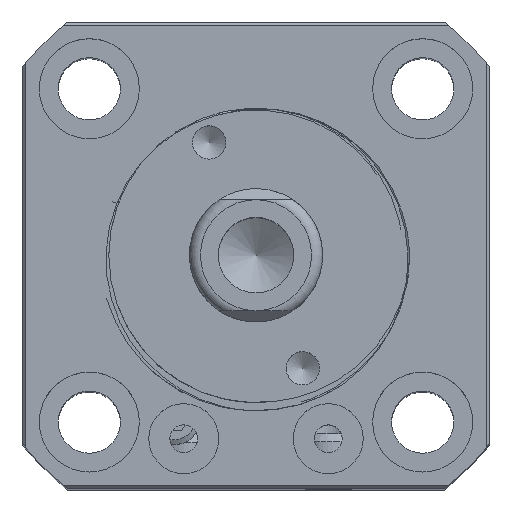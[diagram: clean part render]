
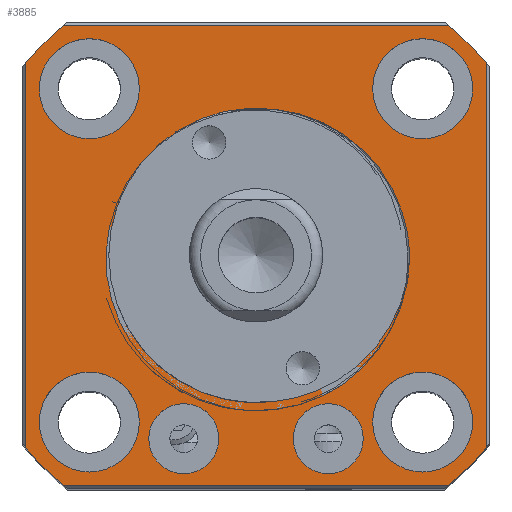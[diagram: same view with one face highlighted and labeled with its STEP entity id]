
A CAD part, top view. The second image highlights one B-rep face of the part: STEP entity #3885.
In plain terms, the highlighted planar face has unit normal (0, 0, 1).
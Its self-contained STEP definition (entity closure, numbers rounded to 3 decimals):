
#3480=B_SPLINE_CURVE_WITH_KNOTS('',3,(#16059,#16060,#16061,#16062,#16063,
#16064),.UNSPECIFIED.,.F.,.F.,(4,2,4),(0.,0.5,1.),.UNSPECIFIED.);
#3481=B_SPLINE_CURVE_WITH_KNOTS('',3,(#16066,#16067,#16068,#16069,#16070,
#16071),.UNSPECIFIED.,.F.,.F.,(4,2,4),(0.,0.5,1.),.UNSPECIFIED.);
#3885=ADVANCED_FACE('',(#4778,#4779,#4780,#4781,#4782,#4783,#4784,#4785),
#4398,.T.);
#4398=PLANE('',#12786);
#4778=FACE_BOUND('',#5007,.T.);
#4779=FACE_BOUND('',#5008,.T.);
#4780=FACE_BOUND('',#5009,.T.);
#4781=FACE_BOUND('',#5010,.T.);
#4782=FACE_BOUND('',#5011,.T.);
#4783=FACE_BOUND('',#5012,.T.);
#4784=FACE_BOUND('',#5013,.T.);
#4785=FACE_BOUND('',#5014,.T.);
#5007=EDGE_LOOP('',(#7681));
#5008=EDGE_LOOP('',(#7682));
#5009=EDGE_LOOP('',(#7683));
#5010=EDGE_LOOP('',(#7684));
#5011=EDGE_LOOP('',(#7685));
#5012=EDGE_LOOP('',(#7686));
#5013=EDGE_LOOP('',(#7687,#7688,#7689));
#5014=EDGE_LOOP('',(#7690,#7691,#7692,#7693,#7694,#7695,#7696,#7697));
#5632=LINE('',#16072,#6553);
#5633=LINE('',#16077,#6554);
#5634=LINE('',#16081,#6555);
#5635=LINE('',#16085,#6556);
#6553=VECTOR('',#13370,1.);
#6554=VECTOR('',#13373,1.);
#6555=VECTOR('',#13376,1.);
#6556=VECTOR('',#13379,1.);
#7681=ORIENTED_EDGE('',*,*,#11267,.F.);
#7682=ORIENTED_EDGE('',*,*,#11269,.F.);
#7683=ORIENTED_EDGE('',*,*,#11287,.F.);
#7684=ORIENTED_EDGE('',*,*,#11289,.F.);
#7685=ORIENTED_EDGE('',*,*,#11291,.F.);
#7686=ORIENTED_EDGE('',*,*,#11293,.F.);
#7687=ORIENTED_EDGE('',*,*,#11323,.F.);
#7688=ORIENTED_EDGE('',*,*,#11345,.T.);
#7689=ORIENTED_EDGE('',*,*,#11346,.T.);
#7690=ORIENTED_EDGE('',*,*,#11347,.T.);
#7691=ORIENTED_EDGE('',*,*,#11348,.T.);
#7692=ORIENTED_EDGE('',*,*,#11349,.T.);
#7693=ORIENTED_EDGE('',*,*,#11350,.T.);
#7694=ORIENTED_EDGE('',*,*,#11351,.T.);
#7695=ORIENTED_EDGE('',*,*,#11352,.T.);
#7696=ORIENTED_EDGE('',*,*,#11353,.T.);
#7697=ORIENTED_EDGE('',*,*,#11354,.T.);
#10316=VERTEX_POINT('',#15458);
#10318=VERTEX_POINT('',#15463);
#10335=VERTEX_POINT('',#15633);
#10337=VERTEX_POINT('',#15638);
#10339=VERTEX_POINT('',#15643);
#10341=VERTEX_POINT('',#15648);
#10371=VERTEX_POINT('',#15866);
#10372=VERTEX_POINT('',#15868);
#10393=VERTEX_POINT('',#16065);
#10394=VERTEX_POINT('',#16073);
#10395=VERTEX_POINT('',#16074);
#10396=VERTEX_POINT('',#16076);
#10397=VERTEX_POINT('',#16078);
#10398=VERTEX_POINT('',#16080);
#10399=VERTEX_POINT('',#16082);
#10400=VERTEX_POINT('',#16084);
#10401=VERTEX_POINT('',#16086);
#11267=EDGE_CURVE('',#10316,#10316,#12616,.T.);
#11269=EDGE_CURVE('',#10318,#10318,#12618,.T.);
#11287=EDGE_CURVE('',#10335,#10335,#12633,.T.);
#11289=EDGE_CURVE('',#10337,#10337,#12635,.T.);
#11291=EDGE_CURVE('',#10339,#10339,#12637,.T.);
#11293=EDGE_CURVE('',#10341,#10341,#12639,.T.);
#11323=EDGE_CURVE('',#10371,#10372,#12649,.T.);
#11345=EDGE_CURVE('',#10371,#10393,#3480,.T.);
#11346=EDGE_CURVE('',#10393,#10372,#3481,.T.);
#11347=EDGE_CURVE('',#10394,#10395,#5632,.T.);
#11348=EDGE_CURVE('',#10395,#10396,#12651,.T.);
#11349=EDGE_CURVE('',#10396,#10397,#5633,.T.);
#11350=EDGE_CURVE('',#10397,#10398,#12652,.T.);
#11351=EDGE_CURVE('',#10398,#10399,#5634,.T.);
#11352=EDGE_CURVE('',#10399,#10400,#12653,.T.);
#11353=EDGE_CURVE('',#10400,#10401,#5635,.T.);
#11354=EDGE_CURVE('',#10401,#10394,#12654,.T.);
#12616=CIRCLE('',#12728,3.15);
#12618=CIRCLE('',#12731,3.15);
#12633=CIRCLE('',#12755,4.5);
#12635=CIRCLE('',#12758,4.5);
#12637=CIRCLE('',#12761,4.5);
#12639=CIRCLE('',#12764,4.5);
#12649=CIRCLE('',#12779,13.25);
#12651=CIRCLE('',#12782,27.);
#12652=CIRCLE('',#12783,27.);
#12653=CIRCLE('',#12784,27.);
#12654=CIRCLE('',#12785,27.);
#12728=AXIS2_PLACEMENT_3D('',#15457,#13261,#13262);
#12731=AXIS2_PLACEMENT_3D('',#15462,#13267,#13268);
#12755=AXIS2_PLACEMENT_3D('',#15632,#13315,#13316);
#12758=AXIS2_PLACEMENT_3D('',#15637,#13321,#13322);
#12761=AXIS2_PLACEMENT_3D('',#15642,#13327,#13328);
#12764=AXIS2_PLACEMENT_3D('',#15647,#13333,#13334);
#12779=AXIS2_PLACEMENT_3D('',#15867,#13363,#13364);
#12782=AXIS2_PLACEMENT_3D('',#16075,#13371,#13372);
#12783=AXIS2_PLACEMENT_3D('',#16079,#13374,#13375);
#12784=AXIS2_PLACEMENT_3D('',#16083,#13377,#13378);
#12785=AXIS2_PLACEMENT_3D('',#16087,#13380,#13381);
#12786=AXIS2_PLACEMENT_3D('',#16088,#13382,#13383);
#13261=DIRECTION('',(0.,0.,1.));
#13262=DIRECTION('',(1.,0.,0.));
#13267=DIRECTION('',(0.,0.,1.));
#13268=DIRECTION('',(1.,0.,0.));
#13315=DIRECTION('',(0.,0.,1.));
#13316=DIRECTION('',(1.,0.,0.));
#13321=DIRECTION('',(0.,0.,1.));
#13322=DIRECTION('',(1.,0.,0.));
#13327=DIRECTION('',(0.,0.,1.));
#13328=DIRECTION('',(1.,0.,0.));
#13333=DIRECTION('',(0.,0.,1.));
#13334=DIRECTION('',(1.,0.,0.));
#13363=DIRECTION('',(0.,0.,1.));
#13364=DIRECTION('',(1.,0.,0.));
#13370=DIRECTION('',(0.,1.,0.));
#13371=DIRECTION('',(0.,0.,1.));
#13372=DIRECTION('',(1.,0.,0.));
#13373=DIRECTION('',(-1.,0.,0.));
#13374=DIRECTION('',(0.,0.,1.));
#13375=DIRECTION('',(1.,0.,0.));
#13376=DIRECTION('',(0.,-1.,0.));
#13377=DIRECTION('',(0.,0.,1.));
#13378=DIRECTION('',(1.,0.,0.));
#13379=DIRECTION('',(1.,0.,0.));
#13380=DIRECTION('',(0.,0.,1.));
#13381=DIRECTION('',(1.,0.,0.));
#13382=DIRECTION('',(0.,0.,1.));
#13383=DIRECTION('',(-1.,0.,0.));
#15457=CARTESIAN_POINT('',(-113.65,1.619,78.017));
#15458=CARTESIAN_POINT('',(-110.5,1.619,78.017));
#15462=CARTESIAN_POINT('',(-100.65,1.619,78.017));
#15463=CARTESIAN_POINT('',(-97.5,1.619,78.017));
#15632=CARTESIAN_POINT('',(-122.15,3.119,78.017));
#15633=CARTESIAN_POINT('',(-117.65,3.119,78.017));
#15637=CARTESIAN_POINT('',(-92.15,3.119,78.017));
#15638=CARTESIAN_POINT('',(-87.65,3.119,78.017));
#15642=CARTESIAN_POINT('',(-92.15,33.119,78.017));
#15643=CARTESIAN_POINT('',(-87.65,33.119,78.017));
#15647=CARTESIAN_POINT('',(-122.15,33.119,78.017));
#15648=CARTESIAN_POINT('',(-117.65,33.119,78.017));
#15866=CARTESIAN_POINT('',(-105.421,31.256,78.017));
#15867=CARTESIAN_POINT('',(-107.15,18.119,78.017));
#15868=CARTESIAN_POINT('',(-105.421,4.982,78.017));
#16059=CARTESIAN_POINT('',(-105.421,31.256,78.017));
#16060=CARTESIAN_POINT('',(-102.159,30.929,78.017));
#16061=CARTESIAN_POINT('',(-99.076,29.358,78.017));
#16062=CARTESIAN_POINT('',(-94.706,24.589,78.017));
#16063=CARTESIAN_POINT('',(-93.396,21.396,78.017));
#16064=CARTESIAN_POINT('',(-93.303,18.119,78.017));
#16065=CARTESIAN_POINT('',(-93.303,18.119,78.017));
#16066=CARTESIAN_POINT('',(-93.303,18.119,78.017));
#16067=CARTESIAN_POINT('',(-93.396,14.841,78.017));
#16068=CARTESIAN_POINT('',(-94.708,11.647,78.017));
#16069=CARTESIAN_POINT('',(-99.076,6.881,78.017));
#16070=CARTESIAN_POINT('',(-102.158,5.309,78.017));
#16071=CARTESIAN_POINT('',(-105.421,4.982,78.017));
#16072=CARTESIAN_POINT('',(-86.45,39.119,78.017));
#16073=CARTESIAN_POINT('',(-86.45,0.784,78.017));
#16074=CARTESIAN_POINT('',(-86.45,35.454,78.017));
#16075=CARTESIAN_POINT('',(-107.15,18.119,78.017));
#16076=CARTESIAN_POINT('',(-89.815,38.819,78.017));
#16077=CARTESIAN_POINT('',(-128.15,38.819,78.017));
#16078=CARTESIAN_POINT('',(-124.485,38.819,78.017));
#16079=CARTESIAN_POINT('',(-107.15,18.119,78.017));
#16080=CARTESIAN_POINT('',(-127.85,35.454,78.017));
#16081=CARTESIAN_POINT('',(-127.85,-2.881,78.017));
#16082=CARTESIAN_POINT('',(-127.85,0.784,78.017));
#16083=CARTESIAN_POINT('',(-107.15,18.119,78.017));
#16084=CARTESIAN_POINT('',(-124.485,-2.581,78.017));
#16085=CARTESIAN_POINT('',(-86.15,-2.581,78.017));
#16086=CARTESIAN_POINT('',(-89.815,-2.581,78.017));
#16087=CARTESIAN_POINT('',(-107.15,18.119,78.017));
#16088=CARTESIAN_POINT('',(-107.15,18.119,78.017));
